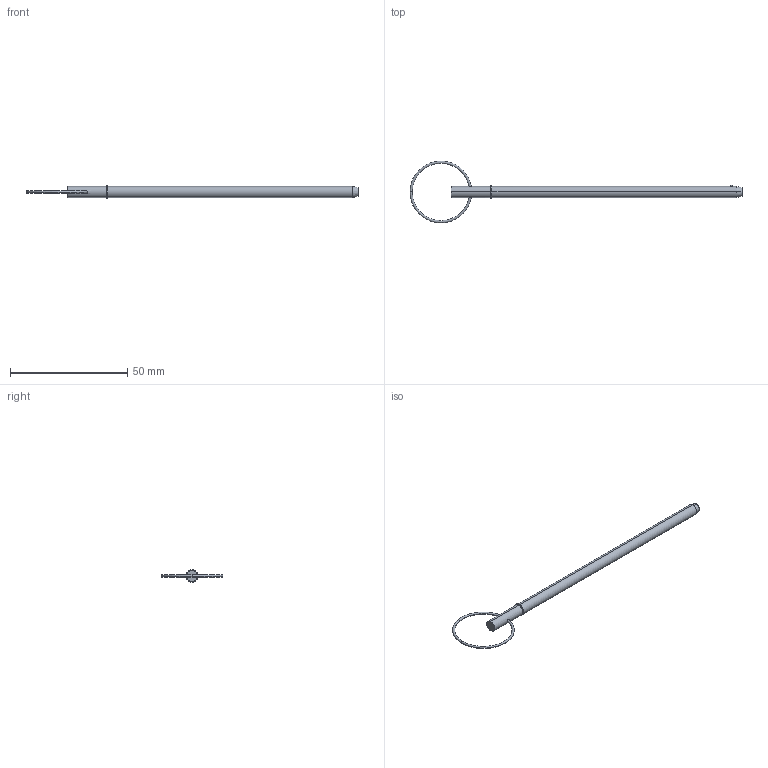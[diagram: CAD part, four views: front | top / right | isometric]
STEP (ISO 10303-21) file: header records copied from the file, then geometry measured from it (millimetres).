
FILE_DESCRIPTION (( 'STEP AP203' ), '1' );
FILE_NAME ('33014.W1840.step', '2024-11-04T08:23:01', ( '' ), ( '' ), 'SwSTEP 2.0', 'SolidWorks 2019', '' );
FILE_SCHEMA (( 'CONFIG_CONTROL_DESIGN' ));
Length unit declared in the file: millimetre
Products named in the file (3): 33014.W1840; Part2_33014.W1840; Part1_33014.W1840
Assembly tree (2 placements, depth 2):
  33014.W1840
    Part1_33014.W1840
    Part2_33014.W1840
Bounding box: 141.66 x 26.35 x 5.24 mm (x, y, z)
Volume: 2253.5 mm3; surface area: 2143.8 mm2
Topology: 2 solids, 2 shells, 22 faces, 43 edges, 26 vertices
Faces by surface type: torus 8, cylinder 6, plane 4, sphere 2, cone 2
Entity records: 939 total; most frequent: CARTESIAN_POINT 162, DIRECTION 120, ORIENTED_EDGE 86, AXIS2_PLACEMENT_3D 56, EDGE_CURVE 43, CIRCLE 29, EDGE_LOOP 27, VERTEX_POINT 26
